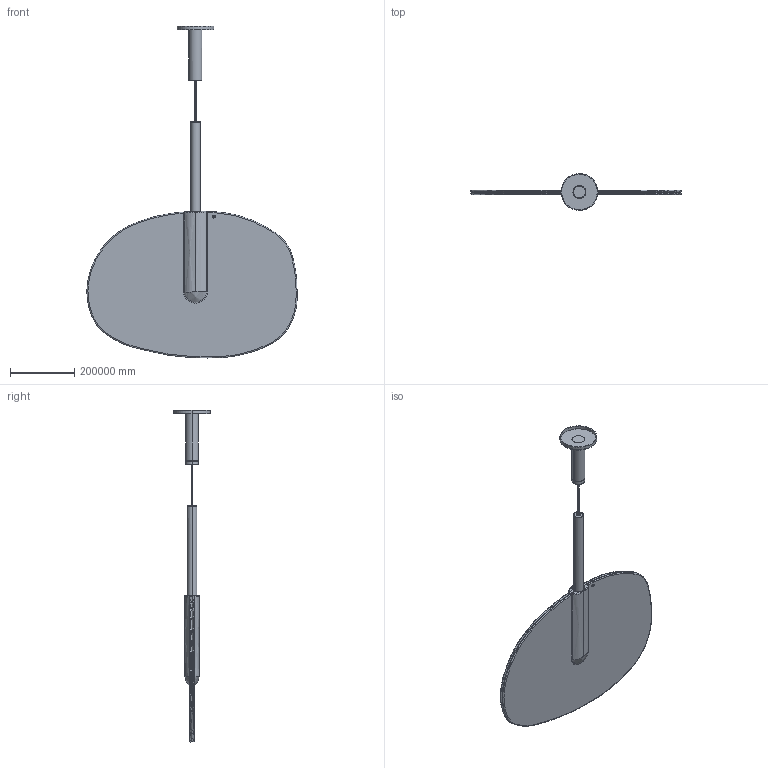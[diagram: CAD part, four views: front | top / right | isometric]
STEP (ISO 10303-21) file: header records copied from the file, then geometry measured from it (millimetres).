
FILE_DESCRIPTION(/* description */ (''),/* implementation_level */ '2;1');
FILE_NAME(/* name */ 'Lollipop Pendant C UL',/* time_stamp */ '2019-01-31T13:07:19+01:00',/* author */ (''),/* organization */ (''),/* preprocessor_version */ 'ST-DEVELOPER v15',/* originating_system */ '',/* authorisation */ '');
FILE_SCHEMA (('AUTOMOTIVE_DESIGN'));
Length unit declared in the file: metre
Products named in the file (1): Document
Bounding box: 652451.21 x 114299.09 x 1030299.03 mm (x, y, z)
Volume: 143914671220113.8 mm3; surface area: 1180350465079.4 mm2
Topology: 7 solids, 9 shells, 459 faces, 1208 edges, 770 vertices
Faces by surface type: plane 275, bspline 184
Entity records: 19188 total; most frequent: CARTESIAN_POINT 11546, ORIENTED_EDGE 2396, EDGE_CURVE 1204, B_SPLINE_CURVE_WITH_KNOTS 948, VERTEX_POINT 770, EDGE_LOOP 476, ADVANCED_FACE 459, FACE_OUTER_BOUND 459
